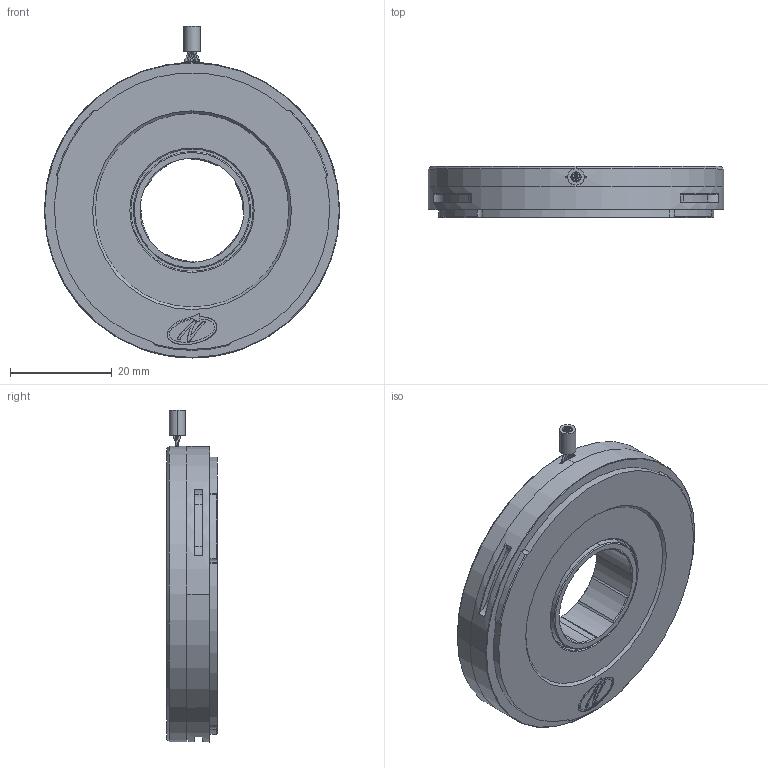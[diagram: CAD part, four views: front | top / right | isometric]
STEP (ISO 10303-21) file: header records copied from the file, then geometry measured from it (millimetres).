
FILE_DESCRIPTION (( 'STEP AP214' ), '1' );
FILE_NAME ('DS-58.STEP', '2025-03-24T09:09:00', ( '' ), ( '' ), 'SwSTEP 2.0', 'SolidWorks 2022', '' );
FILE_SCHEMA (( 'AUTOMOTIVE_DESIGN' ));
Length unit declared in the file: millimetre
Products named in the file (6): MP-00939_DS-58-20 + cable; DS-58-20 cable-6-wires ; DS-58-20 Core_Envelope; MP-00938-00_DS-58-20; MP-00060-00; DS-58
Assembly tree (5 placements, depth 3):
  DS-58
    MP-00938-00_DS-58-20
    DS-58-20 Core_Envelope
      MP-00060-00
      DS-58-20 cable-6-wires 
    MP-00939_DS-58-20 + cable
Bounding box: 58 x 10 x 65.15 mm (x, y, z)
Volume: 10159.2 mm3; surface area: 17544.6 mm2
Topology: 6 solids, 6 shells, 1690 faces, 4827 edges, 3196 vertices
Faces by surface type: plane 1338, cylinder 219, cone 67, bspline 51, torus 15
Entity records: 139084 total; most frequent: CARTESIAN_POINT 85349, ORIENTED_EDGE 9654, DIRECTION 8447, EDGE_CURVE 4827, LINE 4039, VECTOR 4039, VERTEX_POINT 3196, AXIS2_PLACEMENT_3D 2204
